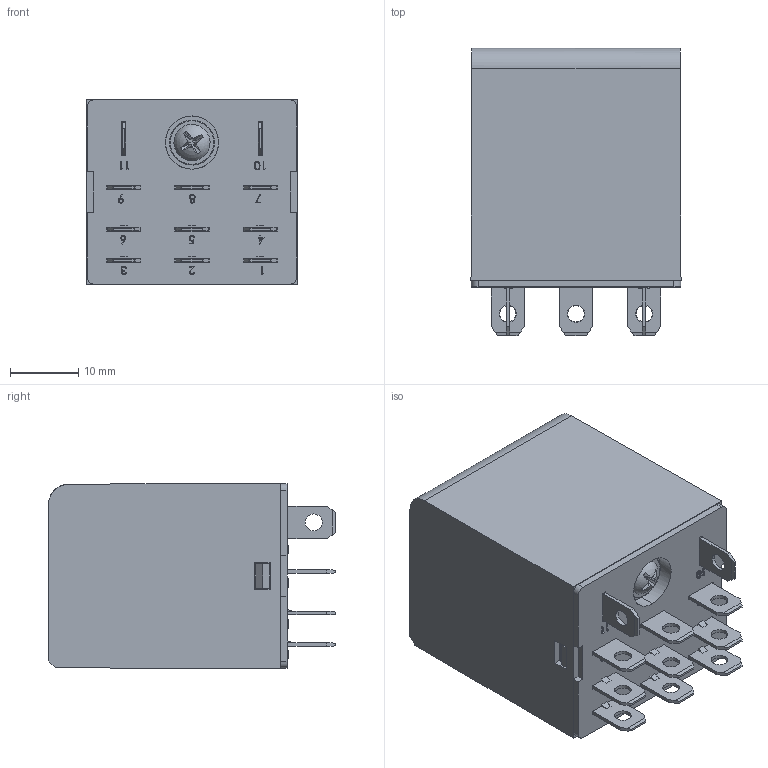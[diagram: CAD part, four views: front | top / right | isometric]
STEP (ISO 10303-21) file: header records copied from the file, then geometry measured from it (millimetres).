
FILE_DESCRIPTION (( 'STEP AP203' ), '1' );
FILE_NAME ('RKL3C 俋倛.STEP', '2023-01-13T08:34:25', ( '' ), ( '' ), 'SwSTEP 2.0', 'SolidWorks 2018', '' );
FILE_SCHEMA (( 'CONFIG_CONTROL_DESIGN' ));
Length unit declared in the file: millimetre
Products named in the file (1): RKL3C 俋倛
Bounding box: 30.8 x 42.1 x 27.2 mm (x, y, z)
Volume: 29004.8 mm3; surface area: 6623.6 mm2
Topology: 1 solids, 1 shells, 540 faces, 1448 edges, 958 vertices
Faces by surface type: plane 391, bspline 84, cylinder 57, cone 5, torus 2, sphere 1
Entity records: 21252 total; most frequent: CARTESIAN_POINT 8030, ORIENTED_EDGE 2894, DIRECTION 2329, EDGE_CURVE 1447, LINE 1155, VECTOR 1155, VERTEX_POINT 958, EDGE_LOOP 623
